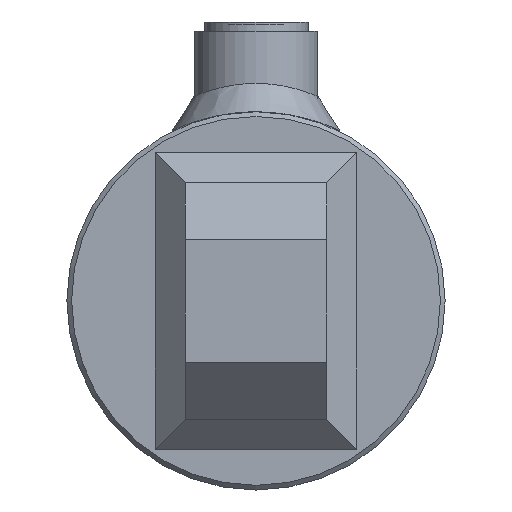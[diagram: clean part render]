
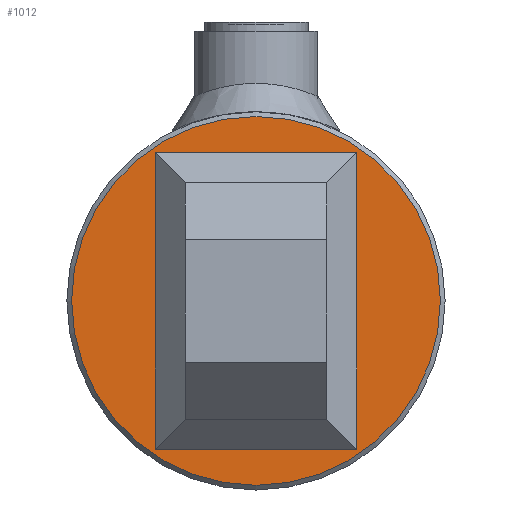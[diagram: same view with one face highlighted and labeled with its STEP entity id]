
A CAD part, left-side view. The second image highlights one B-rep face of the part: STEP entity #1012.
In plain terms, the highlighted planar face has unit normal (-1, 0, 0).
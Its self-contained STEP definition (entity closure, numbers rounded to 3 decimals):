
#1012 = ADVANCED_FACE( '', ( #1893 ), #1894, .T. );
#1893 = FACE_OUTER_BOUND( '', #4640, .T. );
#1894 = PLANE( '', #4641 );
#4640 = EDGE_LOOP( '', ( #6778 ) );
#4641 = AXIS2_PLACEMENT_3D( '', #6779, #6780, #6781 );
#6778 = ORIENTED_EDGE( '', *, *, #7856, .T. );
#6779 = CARTESIAN_POINT( '', ( -12., 0., 0. ) );
#6780 = DIRECTION( '', ( -1., 0., 0. ) );
#6781 = DIRECTION( '', ( 0., -1., 0. ) );
#7856 = EDGE_CURVE( '', #8738, #8738, #8739, .T. );
#8738 = VERTEX_POINT( '', #10584 );
#8739 = CIRCLE( '', #10585, 39. );
#10584 = CARTESIAN_POINT( '', ( -12., -39., 0. ) );
#10585 = AXIS2_PLACEMENT_3D( '', #11400, #11401, #11402 );
#11400 = CARTESIAN_POINT( '', ( -12., 0., 0. ) );
#11401 = DIRECTION( '', ( -1., 0., 0. ) );
#11402 = DIRECTION( '', ( 0., -1., 0. ) );
